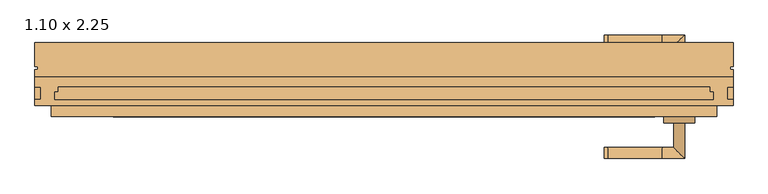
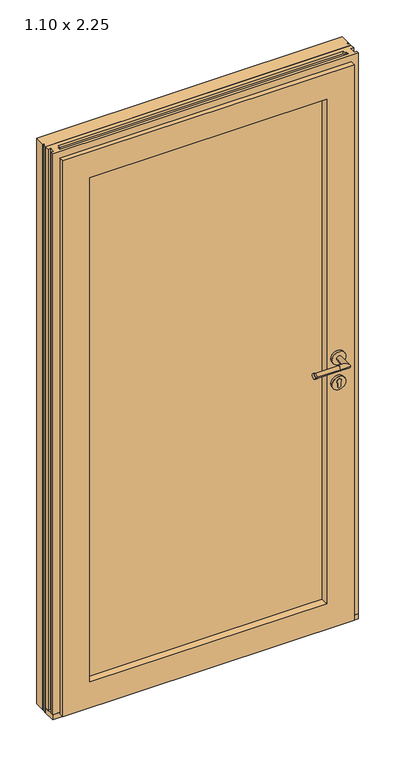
"""IFC4 building model written with IfcOpenShell, lengths in millimetres: door geometry, Porte vitrée MéO : 1.10 x 2.25."""

import ifcopenshell
import ifcopenshell.guid

model = None  # the IFC model being written
_history = None  # IfcOwnerHistory: only IFC2X3 demands one
_inside = {}  # id of a spatial element -> (the spatial element, [elements in it])
_under = {}  # id of a project, library or spatial element -> (it, [spatial elements below it])
_declared = {}  # id of a project -> (the project, [libraries it declares])
_typed = {}  # id of a type object -> (the type object, [elements of that type])
_made_of = {}  # id of a material, layer set ... -> (it, [elements and type objects made of it])


def new_model(schema):
    """Start an empty IFC model of exactly this schema.

    Asked for "IFC4X3", IfcOpenShell would pick the latest addendum, in which some entities
    have other attributes; the version numbers below select the first issue.
    IFC2X3 requires an IfcOwnerHistory on every rooted entity: one is made here for all.
    """
    global model, _history
    if schema == "IFC4X3":
        model = ifcopenshell.file(schema_version=(4, 3, 0, 0))
    else:
        model = ifcopenshell.file(schema=schema)
    _inside.clear()
    _under.clear()
    _declared.clear()
    _typed.clear()
    _made_of.clear()
    _history = None
    if model.schema == "IFC2X3":
        org = make("IfcOrganization", Name="unknown")
        user = make(
            "IfcPersonAndOrganization",
            ThePerson=make("IfcPerson", FamilyName="unknown"),
            TheOrganization=org,
        )
        app = make(
            "IfcApplication",
            ApplicationDeveloper=org,
            Version="unknown",
            ApplicationFullName="unknown",
            ApplicationIdentifier="unknown",
        )
        _history = make(
            "IfcOwnerHistory",
            OwningUser=user,
            OwningApplication=app,
            ChangeAction="ADDED",
            CreationDate=0,
        )
    return model


def make(cls, **values):
    """One entity of the class cls with the attributes given. An attribute that is None is left unset."""
    return model.create_entity(
        cls, **{name: value for name, value in values.items() if value is not None}
    )


def rooted(cls, **values):
    """An entity with a GlobalId (a new one), such as an element, a storey or a relation."""
    return make(cls, GlobalId=ifcopenshell.guid.new(), OwnerHistory=_history, **values)


def si_unit(unit_type, name, prefix=None):
    """IfcSIUnit, for example si_unit("LENGTHUNIT", "METRE", prefix="MILLI")."""
    return make("IfcSIUnit", UnitType=unit_type, Prefix=prefix, Name=name)


def assignment(units):
    """IfcUnitAssignment: the units of a project."""
    return None if units is None else make("IfcUnitAssignment", Units=units)


def point(xyz):
    """IfcCartesianPoint."""
    return None if xyz is None else make("IfcCartesianPoint", Coordinates=xyz)


def direction(xyz):
    """IfcDirection."""
    return None if xyz is None else make("IfcDirection", DirectionRatios=xyz)


def frame(location, z_axis=None, x_axis=None):
    """IfcAxis2Placement3D, a coordinate frame: its origin and axes. An axis left out is left unset."""
    return make(
        "IfcAxis2Placement3D",
        Location=point(location),
        Axis=direction(z_axis),
        RefDirection=direction(x_axis),
    )


def frame_2d(location, x_axis=None):
    """IfcAxis2Placement2D, a coordinate frame in the plane: its origin and x axis."""
    return make(
        "IfcAxis2Placement2D", Location=point(location), RefDirection=direction(x_axis)
    )


def origin():
    """The frame at (0, 0, 0) with its axes left unset."""
    return frame((0.0, 0.0, 0.0))


def origin_with_axes():
    """The frame at (0, 0, 0) with the z axis (0, 0, 1) and the x axis (1, 0, 0) written out."""
    return frame((0.0, 0.0, 0.0), z_axis=(0.0, 0.0, 1.0), x_axis=(1.0, 0.0, 0.0))


def place(relative_to, where):
    """IfcLocalPlacement: puts the frame where relative to a parent placement (None: the world)."""
    return make(
        "IfcLocalPlacement", PlacementRelTo=relative_to, RelativePlacement=where
    )


def context(
    kind, dimensions, precision=None, world=None, true_north=None, identifier=None
):
    """IfcGeometricRepresentationContext, for example the 3D "Model" context."""
    return make(
        "IfcGeometricRepresentationContext",
        ContextIdentifier=identifier,
        ContextType=kind,
        CoordinateSpaceDimension=dimensions,
        Precision=precision,
        WorldCoordinateSystem=world,
        TrueNorth=true_north,
    )


def project(units=None, contexts=None):
    """IfcProject with its units and contexts."""
    return rooted(
        "IfcProject",
        Name="project",
        RepresentationContexts=contexts,
        UnitsInContext=assignment(units),
    )


def spatial(cls, under=None, at=None, **own):
    """A site, building, storey or space (cls), placed at a placement, below another one or the project."""
    s = rooted(cls, ObjectPlacement=at, **own)
    if under is not None:
        _under.setdefault(under.id(), (under, []))[1].append(s)
    return s


def polyline(points):
    """IfcPolyline through the points."""
    return make("IfcPolyline", Points=[point(p) for p in points])


def circle_curve(where, radius):
    """IfcCircle in the frame where."""
    return make("IfcCircle", Position=where, Radius=radius)


def ellipse_curve(where, semi_axis1, semi_axis2):
    """IfcEllipse in the frame where."""
    return make(
        "IfcEllipse", Position=where, SemiAxis1=semi_axis1, SemiAxis2=semi_axis2
    )


def trimmed(basis, trim1, trim2, sense, master):
    """IfcTrimmedCurve: the piece of a basis curve between two trims."""
    return make(
        "IfcTrimmedCurve",
        BasisCurve=basis,
        Trim1=trim1,
        Trim2=trim2,
        SenseAgreement=sense,
        MasterRepresentation=master,
    )


def segment(curve, same_sense, transition):
    """IfcCompositeCurveSegment."""
    return make(
        "IfcCompositeCurveSegment",
        Transition=transition,
        SameSense=same_sense,
        ParentCurve=curve,
    )


def composite_curve(segments, self_intersect=None):
    """IfcCompositeCurve: segments joined end to end."""
    return make("IfcCompositeCurve", Segments=segments, SelfIntersect=self_intersect)


def outline(outer, holes=None, kind="AREA"):
    """IfcArbitraryClosedProfileDef: a profile drawn as a closed curve; with holes, ...WithVoids."""
    if holes is None:
        return make("IfcArbitraryClosedProfileDef", ProfileType=kind, OuterCurve=outer)
    return make(
        "IfcArbitraryProfileDefWithVoids",
        ProfileType=kind,
        OuterCurve=outer,
        InnerCurves=holes,
    )


def extrude(swept, where, along, depth):
    """IfcExtrudedAreaSolid: the profile swept, set in the frame where, extruded along a direction by depth."""
    return make(
        "IfcExtrudedAreaSolid",
        SweptArea=swept,
        Position=where,
        ExtrudedDirection=direction(along),
        Depth=depth,
    )


def faces_of(points, faces, orient=None, outer=None):
    """IfcFace entities. A face is a list of loops; a loop is a list of indices into points, from 0.

    orient and outer hold one flag for each loop. By default every Orientation is true, the
    first loop of a face is its IfcFaceOuterBound and the others are IfcFaceBound.
    """
    made = []
    for i, loops in enumerate(faces):
        bounds = []
        for j, loop in enumerate(loops):
            is_outer = j == 0 if outer is None else outer[i][j]
            bounds.append(
                make(
                    "IfcFaceOuterBound" if is_outer else "IfcFaceBound",
                    Bound=make("IfcPolyLoop", Polygon=[points[k] for k in loop]),
                    Orientation=True if orient is None else orient[i][j],
                )
            )
        made.append(make("IfcFace", Bounds=bounds))
    return made


def faceted_brep(points, faces, orient=None, outer=None, voids=None):
    """IfcFacetedBrep: a solid bounded by flat faces; with voids (closed shells), ...WithVoids."""
    shared = [point(p) for p in points]
    hull = make("IfcClosedShell", CfsFaces=faces_of(shared, faces, orient, outer))
    if voids is None:
        return make("IfcFacetedBrep", Outer=hull)
    return make(
        "IfcFacetedBrepWithVoids",
        Outer=hull,
        Voids=[
            make(cls, CfsFaces=faces_of(shared, fs, o, b)) for cls, fs, o, b in voids
        ],
    )


def shape(context_of_items, identifier, shape_type, items):
    """IfcShapeRepresentation: the items that make up one representation, for example the "Body"."""
    return make(
        "IfcShapeRepresentation",
        ContextOfItems=context_of_items,
        RepresentationIdentifier=identifier,
        RepresentationType=shape_type,
        Items=items,
    )


def source(mapping_origin, context_of_items, identifier, shape_type, items):
    """IfcRepresentationMap: a shape defined once, which mapped items show again and again."""
    return make(
        "IfcRepresentationMap",
        MappingOrigin=mapping_origin,
        MappedRepresentation=shape(context_of_items, identifier, shape_type, items),
    )


def transform(
    local_origin,
    x_axis=None,
    y_axis=None,
    z_axis=None,
    scale=None,
    scale2=None,
    scale3=None,
    uniform=True,
):
    """IfcCartesianTransformationOperator3D, or its non-uniform kind. x_axis, y_axis, z_axis: its Axis1, 2, 3."""
    if uniform:
        return make(
            "IfcCartesianTransformationOperator3D",
            Axis1=direction(x_axis),
            Axis2=direction(y_axis),
            LocalOrigin=point(local_origin),
            Scale=scale,
            Axis3=direction(z_axis),
        )
    return make(
        "IfcCartesianTransformationOperator3DnonUniform",
        Axis1=direction(x_axis),
        Axis2=direction(y_axis),
        LocalOrigin=point(local_origin),
        Scale=scale,
        Axis3=direction(z_axis),
        Scale2=scale2,
        Scale3=scale3,
    )


def mapped(mapping_source, mapping_target):
    """IfcMappedItem: shows the shape of a source again, moved by a transform."""
    return make(
        "IfcMappedItem", MappingSource=mapping_source, MappingTarget=mapping_target
    )


def made_of(thing, what):
    """Note that an element or type object is made of a material, layer set ...; save() writes the relation."""
    if what is not None:
        _made_of.setdefault(what.id(), (what, []))[1].append(thing)
    return thing


def element(
    cls,
    number,
    at=None,
    inside=None,
    cuts=None,
    type_object=None,
    material=None,
    context=None,
    identifier="Body",
    shape_type=None,
    held_by="IfcProductDefinitionShape",
    body=None,
    shapes=None,
    **own,
):
    """One element of the class cls, such as IfcWall. Its Tag is "e" and its number.

    at: its placement. inside: the storey or other place that contains it. cuts: it is an
    opening in that element (IfcRelVoidsElement). A single representation is given by context,
    identifier, shape_type and body (its items); several are given by shapes. held_by: the class
    of the entity that holds the representations. save() writes the other relations.
    """
    e = rooted(cls, Tag="e%d" % number, ObjectPlacement=at, **own)
    if body is not None:
        shapes = [shape(context, identifier, shape_type, body)]
    if shapes is not None:
        e.Representation = make(held_by, Representations=shapes)
    if inside is not None:
        _inside.setdefault(inside.id(), (inside, []))[1].append(e)
    if cuts is not None:
        rooted(
            "IfcRelVoidsElement", RelatingBuildingElement=cuts, RelatedOpeningElement=e
        )
    if type_object is not None:
        _typed.setdefault(type_object.id(), (type_object, []))[1].append(e)
    return made_of(e, material)


def aggregate(whole, parts):
    """IfcRelAggregates: a whole, such as a stair, and the parts it consists of."""
    return rooted("IfcRelAggregates", RelatingObject=whole, RelatedObjects=parts)


def save(model, path):
    """Write the relations noted so far, then the file.

    IfcRelAggregates (storeys below a building ...), IfcRelContainedInSpatialStructure (elements
    in a storey), IfcRelDefinesByType, IfcRelAssociatesMaterial and IfcRelDeclares: one each for
    every whole, place, type object, material and project.
    """
    for whole, parts in _under.values():
        aggregate(whole, parts)
    for where, things in _inside.values():
        rooted(
            "IfcRelContainedInSpatialStructure",
            RelatedElements=things,
            RelatingStructure=where,
        )
    for kind, things in _typed.values():
        rooted("IfcRelDefinesByType", RelatedObjects=things, RelatingType=kind)
    for what, things in _made_of.values():
        rooted("IfcRelAssociatesMaterial", RelatedObjects=things, RelatingMaterial=what)
    for by, libraries in _declared.values():
        rooted("IfcRelDeclares", RelatingContext=by, RelatedDefinitions=libraries)
    model.write(path)


def plane_surface(at):
    """IfcPlane: the flat surface through the origin of the frame at, square to its z axis."""
    return make("IfcPlane", Position=at)


def cylinder_surface(at, radius):
    """IfcCylindricalSurface: all points at the distance radius from the z axis of the frame at."""
    return make("IfcCylindricalSurface", Position=at, Radius=radius)


def advanced_brep(points, edges, surfaces, faces):
    """IfcAdvancedBrep: a solid bounded by faces that lie on surfaces and meet in shared edges.

    An edge is (start, end): straight between two places in points (the first is 0);
    or (start, end, curve); or (start, end, curve, False) where it runs against its curve.
    A face is (place in surfaces, loops), or (place, loops, False) where it looks against
    its surface's normal. A loop lists edges by number (the first is 1), with a minus sign
    where the edge is run from its end to its start. The first loop is the outer one.
    """
    corners = [point(p) for p in points]
    vertices = [make("IfcVertexPoint", VertexGeometry=c) for c in corners]
    made = []
    for start, end, *more in edges:
        made.append(
            make(
                "IfcEdgeCurve",
                EdgeStart=vertices[start],
                EdgeEnd=vertices[end],
                EdgeGeometry=more[0] if more else make("IfcPolyline", Points=[corners[start], corners[end]]),
                SameSense=more[1] if len(more) > 1 else True,
            )
        )
    hull = []
    for where, loops, *sense in faces:
        bounds = []
        for j, loop in enumerate(loops):
            ring = [make("IfcOrientedEdge", EdgeElement=made[abs(k) - 1], Orientation=k > 0) for k in loop]
            bounds.append(
                make(
                    "IfcFaceOuterBound" if j == 0 else "IfcFaceBound",
                    Bound=make("IfcEdgeLoop", EdgeList=ring),
                    Orientation=True,
                )
            )
        hull.append(make("IfcAdvancedFace", Bounds=bounds, FaceSurface=surfaces[where], SameSense=sense[0] if sense else True))
    return make("IfcAdvancedBrep", Outer=make("IfcClosedShell", CfsFaces=hull))


def door_1_10_x_2_25_61aac9a4(model_context):
    return source(origin(), model_context, "Body", "SolidModel", [
        advanced_brep(
        [(483.5, -122.0, 1100.0), (502.5, -122.0, 1100.0), (502.5, -62.0, 1100.0), (483.5, -81.0, 1100.0), (367.5, -81.0, 1100.0), (367.5, -62.0, 1100.0), (373.5, -81.0, 1100.0), (373.5, -62.0, 1100.0), (464.5, -62.0, 1100.0), (464.5, -81.0, 1100.0), (373.5, -80.5, 1100.0), (373.5, -62.5, 1100.0), (464.5, -80.5, 1100.0), (464.5, -62.5, 1100.0)],
        [
            (0, 1, circle_curve(frame((493.0, -122.0, 1100.0), z_axis=(0.0, -1.0, 0.0), x_axis=(1.0, 0.0, 0.0)), 9.5)),
            (1, 0, circle_curve(frame((493.0, -122.0, 1100.0), z_axis=(0.0, -1.0, 0.0), x_axis=(1.0, 0.0, 0.0)), 9.5)),
            (1, 2),
            (2, 3, ellipse_curve(frame((493.0, -71.5, 1100.0), z_axis=(0.7071067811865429, -0.707106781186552, 0.0), x_axis=(-0.7071067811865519, -0.707106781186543, 0.0)), 13.4350288, 9.5)),
            (3, 0),
            (3, 2, ellipse_curve(frame((493.0, -71.5, 1100.0), z_axis=(0.7071067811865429, -0.707106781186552, 0.0), x_axis=(-0.7071067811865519, -0.707106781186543, 0.0)), 13.4350288, 9.5)),
            (4, 5, circle_curve(frame((367.5, -71.5, 1100.0), z_axis=(-1.0, 0.0, 0.0), x_axis=(0.0, 1.0, 0.0)), 9.5)),
            (5, 4, circle_curve(frame((367.5, -71.5, 1100.0), z_axis=(-1.0, 0.0, 0.0), x_axis=(0.0, 1.0, 0.0)), 9.5)),
            (4, 6),
            (6, 7, circle_curve(frame((373.5, -71.5, 1100.0), z_axis=(-1.0, 0.0, 0.0), x_axis=(0.0, 1.0, 0.0)), 9.5)),
            (7, 5),
            (2, 8),
            (8, 9, circle_curve(frame((464.5, -71.5, 1100.0), z_axis=(1.0, 0.0, 0.0), x_axis=(0.0, 1.0, 0.0)), 9.5)),
            (9, 3),
            (9, 8, circle_curve(frame((464.5, -71.5, 1100.0), z_axis=(1.0, 0.0, 0.0), x_axis=(0.0, 1.0, 0.0)), 9.5)),
            (7, 6, circle_curve(frame((373.5, -71.5, 1100.0), z_axis=(-1.0, 0.0, 0.0), x_axis=(0.0, 1.0, 0.0)), 9.5)),
            (10, 11, circle_curve(frame((373.5, -71.5, 1100.0), z_axis=(-1.0, 0.0, 0.0), x_axis=(0.0, 1.0, 0.0)), 9.0)),
            (11, 10, circle_curve(frame((373.5, -71.5, 1100.0), z_axis=(-1.0, 0.0, 0.0), x_axis=(0.0, 1.0, 0.0)), 9.0)),
            (12, 13, circle_curve(frame((464.5, -71.5, 1100.0), z_axis=(1.0, 0.0, 0.0), x_axis=(0.0, 1.0, 0.0)), 9.0)),
            (13, 12, circle_curve(frame((464.5, -71.5, 1100.0), z_axis=(1.0, 0.0, 0.0), x_axis=(0.0, 1.0, 0.0)), 9.0)),
            (10, 12),
            (13, 11),
        ],
        [
            plane_surface(frame((493.0, -122.0, 1100.0), z_axis=(0.0, -1.0, 0.0), x_axis=(0.0, 0.0, 1.0))),
            cylinder_surface(frame((493.0, -122.0, 1100.0), z_axis=(0.0, -1.0, 0.0), x_axis=(1.0, 0.0, 0.0)), 9.5),
            plane_surface(frame((367.5, -71.5, 1100.0), z_axis=(-1.0, 0.0, 0.0), x_axis=(0.0, 0.0, 1.0))),
            cylinder_surface(frame((493.0, -71.5, 1100.0), z_axis=(1.0, 0.0, 0.0), x_axis=(0.0, 1.0, 0.0)), 9.5),
            plane_surface(frame((373.5, -62.0, 1100.0), z_axis=(1.0, 0.0, 0.0), x_axis=(0.0, 0.0, 1.0))),
            plane_surface(frame((464.5, -62.0, 1100.0), z_axis=(-1.0, 0.0, 0.0), x_axis=(0.0, 0.0, -1.0))),
            cylinder_surface(frame((493.0, -71.5, 1100.0), z_axis=(1.0, 0.0, 0.0), x_axis=(0.0, 1.0, 0.0)), 9.0),
        ],
        [
            (0, [[1, 2]]),
            (1, [[3, 4, 5, -2]]),
            (1, [[-5, 6, -3, -1]]),
            (2, [[7, 8]]),
            (3, [[9, 10, 11, -7]]),
            (3, [[12, 13, 14, -4]]),
            (3, [[-14, 15, -12, -6]]),
            (3, [[-11, 16, -9, -8]]),
            (4, [[-16, -10], [17, 18]]),
            (5, [[-15, -13], [19, 20]]),
            (6, [[21, -20, 22, -17]]),
            (6, [[-22, -19, -21, -18]]),
        ],
    ),
        extrude(outline(composite_curve([segment(trimmed(circle_curve(frame_2d((999.75, 493.0)), 26.0), [point((999.75, 519.0))], [point((999.75, 467.0))], False, "CARTESIAN"), True, "CONTINUOUS"), segment(trimmed(circle_curve(frame_2d((999.75, 493.0)), 26.0), [point((999.75, 467.0))], [point((999.75, 519.0))], False, "CARTESIAN"), True, "CONTINUOUS")], self_intersect=False)), frame((0.0, -132.0, 0.0), z_axis=(0.0, 1.0, 0.0), x_axis=(0.0, 0.0, 1.0)), (0.0, 0.0, 1.0), 10.0),
        extrude(outline(composite_curve([segment(trimmed(circle_curve(frame_2d((1008.0, 493.0)), 8.75), [point((1001.404547, 498.75))], [point((1001.404547, 487.25))], False, "CARTESIAN"), True, "CONTINUOUS"), segment(polyline([(1001.404547, 487.25), (988.0, 487.25)]), True, "CONTINUOUS"), segment(trimmed(circle_curve(frame_2d((988.0, 493.0)), 5.75), [point((988.0, 487.25))], [point((988.0, 498.75))], False, "CARTESIAN"), True, "CONTINUOUS"), segment(polyline([(988.0, 498.75), (1001.404547, 498.75)]), True, "CONTINUOUS")], self_intersect=False)), frame((0.0, -122.0, 0.0), z_axis=(0.0, 1.0, 0.0), x_axis=(0.0, 0.0, 1.0)), (0.0, 0.0, 1.0), 1.0),
        extrude(outline(composite_curve([segment(trimmed(circle_curve(frame_2d((1100.0, 493.0)), 26.0), [point((1100.0, 519.0))], [point((1100.0, 467.0))], False, "CARTESIAN"), True, "CONTINUOUS"), segment(trimmed(circle_curve(frame_2d((1100.0, 493.0)), 26.0), [point((1100.0, 467.0))], [point((1100.0, 519.0))], False, "CARTESIAN"), True, "CONTINUOUS")], self_intersect=False)), frame((0.0, -132.0, 0.0), z_axis=(0.0, 1.0, 0.0), x_axis=(0.0, 0.0, 1.0)), (0.0, 0.0, 1.0), 10.0),
        advanced_brep(
        [(483.5, -209.0, 1100.0), (502.5, -209.0, 1100.0), (483.5, -250.0, 1100.0), (502.5, -269.0, 1100.0), (367.5, -250.0, 1100.0), (367.5, -269.0, 1100.0), (464.5, -250.0, 1100.0), (464.5, -269.0, 1100.0), (373.5, -269.0, 1100.0), (373.5, -250.0, 1100.0), (373.5, -250.5, 1100.0), (373.5, -268.5, 1100.0), (464.5, -250.5, 1100.0), (464.5, -268.5, 1100.0)],
        [
            (0, 1, circle_curve(frame((493.0, -209.0, 1100.0), z_axis=(0.0, 1.0, 0.0), x_axis=(1.0, 0.0, 0.0)), 9.5)),
            (1, 0, circle_curve(frame((493.0, -209.0, 1100.0), z_axis=(0.0, 1.0, 0.0), x_axis=(1.0, 0.0, 0.0)), 9.5)),
            (0, 2),
            (2, 3, ellipse_curve(frame((493.0, -259.5, 1100.0), z_axis=(0.7071067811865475, 0.7071067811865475, 0.0), x_axis=(-0.7071067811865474, 0.7071067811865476, 0.0)), 13.4350288, 9.5)),
            (3, 1),
            (3, 2, ellipse_curve(frame((493.0, -259.5, 1100.0), z_axis=(0.7071067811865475, 0.7071067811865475, 0.0), x_axis=(-0.7071067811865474, 0.7071067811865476, 0.0)), 13.4350288, 9.5)),
            (4, 5, circle_curve(frame((367.5, -259.5, 1100.0), z_axis=(-1.0, 0.0, 0.0), x_axis=(0.0, -1.0, 0.0)), 9.5)),
            (5, 4, circle_curve(frame((367.5, -259.5, 1100.0), z_axis=(-1.0, 0.0, 0.0), x_axis=(0.0, -1.0, 0.0)), 9.5)),
            (2, 6),
            (6, 7, circle_curve(frame((464.5, -259.5, 1100.0), z_axis=(1.0, 0.0, 0.0), x_axis=(0.0, -1.0, 0.0)), 9.5)),
            (7, 3),
            (5, 8),
            (8, 9, circle_curve(frame((373.5, -259.5, 1100.0), z_axis=(-1.0, 0.0, 0.0), x_axis=(0.0, -1.0, 0.0)), 9.5)),
            (9, 4),
            (7, 6, circle_curve(frame((464.5, -259.5, 1100.0), z_axis=(1.0, 0.0, 0.0), x_axis=(0.0, -1.0, 0.0)), 9.5)),
            (9, 8, circle_curve(frame((373.5, -259.5, 1100.0), z_axis=(-1.0, 0.0, 0.0), x_axis=(0.0, -1.0, 0.0)), 9.5)),
            (10, 11, circle_curve(frame((373.5, -259.5, 1100.0), z_axis=(-1.0, 0.0, 0.0), x_axis=(0.0, -1.0, 0.0)), 9.0)),
            (11, 10, circle_curve(frame((373.5, -259.5, 1100.0), z_axis=(-1.0, 0.0, 0.0), x_axis=(0.0, -1.0, 0.0)), 9.0)),
            (12, 13, circle_curve(frame((464.5, -259.5, 1100.0), z_axis=(1.0, 0.0, 0.0), x_axis=(0.0, -1.0, 0.0)), 9.0)),
            (13, 12, circle_curve(frame((464.5, -259.5, 1100.0), z_axis=(1.0, 0.0, 0.0), x_axis=(0.0, -1.0, 0.0)), 9.0)),
            (11, 13),
            (12, 10),
        ],
        [
            plane_surface(frame((493.0, -209.0, 1100.0), z_axis=(0.0, 1.0, 0.0), x_axis=(0.0, 0.0, 1.0))),
            cylinder_surface(frame((493.0, -209.0, 1100.0), z_axis=(0.0, 1.0, 0.0), x_axis=(1.0, 0.0, 0.0)), 9.5),
            plane_surface(frame((367.5, -259.5, 1100.0), z_axis=(-1.0, 0.0, 0.0), x_axis=(0.0, 0.0, 1.0))),
            cylinder_surface(frame((493.0, -259.5, 1100.0), z_axis=(1.0, 0.0, 0.0), x_axis=(0.0, -1.0, 0.0)), 9.5),
            plane_surface(frame((373.5, -269.0, 1100.0), z_axis=(1.0, 0.0, 0.0), x_axis=(0.0, 0.0, 1.0))),
            plane_surface(frame((464.5, -269.0, 1100.0), z_axis=(-1.0, 0.0, 0.0), x_axis=(0.0, 0.0, -1.0))),
            cylinder_surface(frame((493.0, -259.5, 1100.0), z_axis=(1.0, 0.0, 0.0), x_axis=(0.0, -1.0, 0.0)), 9.0),
        ],
        [
            (0, [[1, 2]]),
            (1, [[-1, 3, 4, 5]]),
            (1, [[-2, -5, 6, -3]]),
            (2, [[7, 8]]),
            (3, [[-4, 9, 10, 11]]),
            (3, [[-8, 12, 13, 14]]),
            (3, [[-6, -11, 15, -9]]),
            (3, [[-7, -14, 16, -12]]),
            (4, [[-13, -16], [17, 18]]),
            (5, [[-10, -15], [19, 20]]),
            (6, [[-18, 21, -19, 22]]),
            (6, [[-17, -22, -20, -21]]),
        ],
    ),
        extrude(outline(composite_curve([segment(trimmed(circle_curve(frame_2d((999.75, 493.0)), 26.0), [point((999.75, 519.0))], [point((999.75, 467.0))], False, "CARTESIAN"), True, "CONTINUOUS"), segment(trimmed(circle_curve(frame_2d((999.75, 493.0)), 26.0), [point((999.75, 467.0))], [point((999.75, 519.0))], False, "CARTESIAN"), True, "CONTINUOUS")], self_intersect=False)), frame((0.0, -209.0, 0.0), z_axis=(0.0, 1.0, 0.0), x_axis=(0.0, 0.0, 1.0)), (0.0, 0.0, 1.0), 10.0),
        extrude(outline(composite_curve([segment(trimmed(circle_curve(frame_2d((1008.0, 493.0)), 8.75), [point((1001.404547, 498.75))], [point((1001.404547, 487.25))], False, "CARTESIAN"), True, "CONTINUOUS"), segment(polyline([(1001.404547, 487.25), (988.0, 487.25)]), True, "CONTINUOUS"), segment(trimmed(circle_curve(frame_2d((988.0, 493.0)), 5.75), [point((988.0, 487.25))], [point((988.0, 498.75))], False, "CARTESIAN"), True, "CONTINUOUS"), segment(polyline([(988.0, 498.75), (1001.404547, 498.75)]), True, "CONTINUOUS")], self_intersect=False)), frame((0.0, -210.0, 0.0), z_axis=(0.0, 1.0, 0.0), x_axis=(0.0, 0.0, 1.0)), (0.0, 0.0, 1.0), 1.0),
        extrude(outline(composite_curve([segment(trimmed(circle_curve(frame_2d((1100.0, 493.0)), 26.0), [point((1100.0, 519.0))], [point((1100.0, 467.0))], False, "CARTESIAN"), True, "CONTINUOUS"), segment(trimmed(circle_curve(frame_2d((1100.0, 493.0)), 26.0), [point((1100.0, 467.0))], [point((1100.0, 519.0))], False, "CARTESIAN"), True, "CONTINUOUS")], self_intersect=False)), frame((0.0, -209.0, 0.0), z_axis=(0.0, 1.0, 0.0), x_axis=(0.0, 0.0, 1.0)), (0.0, 0.0, 1.0), 10.0),
        extrude(outline(polyline([(462.0, -148.0), (462.0, -175.9981764), (-462.0, -175.9981764), (-462.0, -148.0), (462.0, -148.0)])), frame((0.0, 0.0, 108.0), z_axis=(0.0, 0.0, 1.0), x_axis=(1.0, 0.0, 0.0)), (0.0, 0.0, 1.0), 2055.0),
        faceted_brep([(446.0, -148.0, 2147.0), (450.5226435, -132.0, 2151.5226435), (450.5226435, -132.0, 119.4773565), (446.0, -148.0, 124.0), (526.0, -132.0, 44.0), (-526.0, -132.0, 44.0), (-526.0, -132.0, 2227.0), (526.0, -132.0, 2227.0), (-450.5226435, -132.0, 2151.5226435), (-450.5226435, -132.0, 119.4773565), (-446.0, -148.0, 124.0), (526.0, -148.0, 2227.0), (-526.0, -148.0, 2227.0), (-526.0, -148.0, 44.0), (526.0, -148.0, 44.0), (-446.0, -148.0, 2147.0)], [[[0, 1, 2, 3]], [[4, 5, 6, 7], [1, 8, 9, 2]], [[3, 2, 9, 10]], [[11, 12, 13, 14], [3, 10, 15, 0]], [[7, 11, 14, 4]], [[4, 14, 13, 5]], [[10, 9, 8, 15]], [[5, 13, 12, 6]], [[15, 8, 1, 0]], [[6, 12, 11, 7]]]),
        faceted_brep([(556.0, -180.0, 2257.0), (556.0, -199.0, 2257.0), (556.0, -199.0, 14.0), (556.0, -180.0, 14.0), (-556.0, -199.0, 2257.0), (-556.0, -199.0, 14.0), (452.0, -199.0, 118.0), (-452.0, -199.0, 118.0), (-452.0, -199.0, 2153.0), (452.0, -199.0, 2153.0), (-556.0, -180.0, 14.0), (-556.0, -180.0, 2257.0), (526.0, -180.0, 2227.0), (-526.0, -180.0, 2227.0), (-526.0, -180.0, 44.0), (526.0, -180.0, 44.0), (526.0, -148.0, 2227.0), (526.0, -148.0, 44.0), (-526.0, -148.0, 44.0), (-526.0, -148.0, 2227.0), (462.0, -148.0, 2163.0), (-462.0, -148.0, 2163.0), (-462.0, -148.0, 108.0), (462.0, -148.0, 108.0), (462.0, -175.9981764, 2163.0), (462.0, -175.9981764, 108.0), (-462.0, -175.9981764, 108.0), (-462.0, -175.9981764, 2163.0), (446.2463825, -175.9981764, 2147.2463825), (-446.2463825, -175.9981764, 2147.2463825), (-446.2463825, -175.9981764, 123.7536175), (446.2463825, -175.9981764, 123.7536175)], [[[0, 1, 2, 3]], [[1, 4, 5, 2], [6, 7, 8, 9]], [[3, 2, 5, 10]], [[3, 10, 11, 0], [12, 13, 14, 15]], [[16, 12, 15, 17]], [[17, 15, 14, 18]], [[17, 18, 19, 16], [20, 21, 22, 23]], [[24, 20, 23, 25]], [[25, 23, 22, 26]], [[25, 26, 27, 24], [28, 29, 30, 31]], [[9, 28, 31, 6]], [[6, 31, 30, 7]], [[10, 5, 4, 11]], [[18, 14, 13, 19]], [[26, 22, 21, 27]], [[7, 30, 29, 8]], [[11, 4, 1, 0]], [[19, 13, 12, 16]], [[27, 21, 20, 24]], [[8, 29, 28, 9]]]),
        faceted_brep([(544.0, -75.0, 0.0), (583.0, -75.0, 0.0), (583.0, -115.0, 0.0), (578.0, -115.0, 0.0), (578.0, -120.0, 0.0), (583.0, -120.0, 0.0), (583.0, -132.0, 0.0), (521.5, -132.0, 0.0), (521.5, -124.0, 0.0), (544.0, -124.0, 0.0), (-583.0, -120.0, 0.0), (-578.0, -120.0, 0.0), (-578.0, -115.0, 0.0), (-583.0, -115.0, 0.0), (-583.0, -75.0, 0.0), (-544.0, -75.0, 0.0), (-544.0, -124.0, 0.0), (-521.5, -124.0, 0.0), (-521.5, -132.0, 0.0), (-583.0, -132.0, 0.0), (544.0, -124.0, 2245.0), (544.0, -75.0, 2245.0), (521.5, -132.0, 2222.5), (521.5, -124.0, 2222.5), (-544.0, -75.0, 2245.0), (-544.0, -124.0, 2245.0), (-521.5, -124.0, 2222.5), (-521.5, -132.0, 2222.5), (-583.0, -132.0, 2284.0), (-583.0, -120.0, 2284.0), (-583.0, -115.0, 2284.0), (-583.0, -75.0, 2284.0), (-578.0, -115.0, 2284.0), (-578.0, -120.0, 2284.0), (583.0, -120.0, 2284.0), (583.0, -132.0, 2284.0), (578.0, -120.0, 2284.0), (578.0, -115.0, 2284.0), (583.0, -115.0, 2284.0), (583.0, -75.0, 2284.0)], [[[0, 1, 2, 3, 4, 5, 6, 7, 8, 9]], [[10, 11, 12, 13, 14, 15, 16, 17, 18, 19]], [[0, 9, 20, 21]], [[8, 7, 22, 23]], [[24, 21, 20, 25]], [[26, 23, 22, 27]], [[18, 17, 26, 27]], [[25, 16, 15, 24]], [[28, 29, 10, 19]], [[30, 31, 14, 13]], [[32, 30, 13, 12]], [[33, 32, 12, 11]], [[29, 33, 11, 10]], [[34, 35, 6, 5]], [[36, 34, 5, 4]], [[37, 36, 4, 3]], [[38, 37, 3, 2]], [[39, 38, 2, 1]], [[39, 1, 0, 21, 24, 15, 14, 31]], [[9, 8, 23, 26, 17, 16, 25, 20]], [[27, 22, 7, 6, 35, 28, 19, 18]], [[39, 31, 30, 32, 33, 29, 28, 35, 34, 36, 37, 38]]]),
        faceted_brep([(583.0, -180.0, 2284.0), (583.0, -170.0, 2284.0), (573.0, -170.0, 2284.0), (573.0, -149.0, 2284.0), (583.0, -149.0, 2284.0), (583.0, -132.0, 2284.0), (-583.0, -132.0, 2284.0), (-583.0, -149.0, 2284.0), (-573.0, -149.0, 2284.0), (-573.0, -170.0, 2284.0), (-583.0, -170.0, 2284.0), (-583.0, -180.0, 2284.0), (550.0, -158.0, 2284.0), (550.0, -170.0, 2284.0), (-550.0, -170.0, 2284.0), (-550.0, -158.0, 2284.0), (-544.0, -158.0, 2284.0), (-544.0, -149.0, 2284.0), (544.0, -149.0, 2284.0), (544.0, -158.0, 2284.0), (550.0, -180.0, 20.0), (550.0, -158.0, 20.0), (544.0, -158.0, 20.0), (544.0, -132.0, 20.0), (583.0, -132.0, 20.0), (583.0, -149.0, 20.0), (573.0, -149.0, 20.0), (573.0, -170.0, 20.0), (583.0, -170.0, 20.0), (583.0, -180.0, 20.0), (-550.0, -180.0, 20.0), (-583.0, -180.0, 20.0), (-583.0, -170.0, 20.0), (-573.0, -170.0, 20.0), (-573.0, -149.0, 20.0), (-583.0, -149.0, 20.0), (-583.0, -132.0, 20.0), (-544.0, -132.0, 20.0), (-544.0, -158.0, 20.0), (-550.0, -158.0, 20.0), (-550.0, -180.0, 2251.0), (550.0, -180.0, 2251.0), (544.0, -132.0, 2251.0), (-544.0, -132.0, 2251.0), (544.0, -149.0, 2274.0), (544.0, -158.0, 2274.0), (544.0, -158.0, 2251.0), (550.0, -158.0, 2274.0), (550.0, -158.0, 2251.0), (550.0, -170.0, 2274.0), (-550.0, -170.0, 2274.0), (-550.0, -158.0, 2274.0), (-550.0, -158.0, 2251.0), (-544.0, -158.0, 2274.0), (-544.0, -158.0, 2251.0), (-544.0, -149.0, 2274.0)], [[[0, 1, 2, 3, 4, 5, 6, 7, 8, 9, 10, 11], [12, 13, 14, 15, 16, 17, 18, 19]], [[20, 21, 22, 23, 24, 25, 26, 27, 28, 29]], [[30, 31, 32, 33, 34, 35, 36, 37, 38, 39]], [[0, 11, 31, 30, 40, 41, 20, 29]], [[1, 0, 29, 28]], [[2, 1, 28, 27]], [[3, 2, 27, 26]], [[5, 4, 25, 24]], [[24, 23, 42, 43, 37, 36, 6, 5]], [[19, 18, 44, 45]], [[23, 22, 46, 42]], [[12, 19, 45, 47]], [[22, 21, 48, 46]], [[13, 12, 47, 49]], [[21, 20, 41, 48]], [[15, 14, 50, 51]], [[30, 39, 52, 40]], [[16, 15, 51, 53]], [[39, 38, 54, 52]], [[17, 16, 53, 55]], [[38, 37, 43, 54]], [[7, 6, 36, 35]], [[11, 10, 32, 31]], [[14, 13, 49, 50]], [[50, 49, 47, 45, 44, 55, 53, 51]], [[18, 17, 55, 44]], [[41, 40, 52, 54, 43, 42, 46, 48]], [[4, 3, 26, 25]], [[8, 7, 35, 34]], [[9, 8, 34, 33]], [[10, 9, 33, 32]]]),
        extrude(outline(polyline([(-3.354759, 0.0), (0.0, 0.0), (-0.9723795, -2.2), (-0.9723795, -15.1), (-2.3823795, -15.1), (-2.3823795, -2.2), (-3.354759, 0.0)])), frame((-521.5, -126.0676205, 35.1), z_axis=(1.0, 3.224210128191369e-12, 0.0), x_axis=(-3.224210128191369e-12, 1.0, 0.0)), (0.0, 0.0, 1.0), 1043.0),
        extrude(outline(polyline([(-544.0, -132.0), (-544.0, -115.0), (544.0, -115.0), (544.0, -132.0), (-544.0, -132.0)])), origin_with_axes(), (0.0, 0.0, 1.0), 20.0),
        extrude(outline(polyline([(-583.0, -180.0), (-583.0, -132.0), (583.0, -132.0), (583.0, -180.0), (-583.0, -180.0)])), origin_with_axes(), (0.0, 0.0, 1.0), 20.0),
        extrude(outline(polyline([(0.0, 0.0), (18.3886975, 0.0), (19.0946064, -4.0083154), (17.5188558, -4.2858226), (17.0453592, -1.5971982), (1.905907, -1.5971982), (4.0159704, -13.5786309), (10.7129102, -12.3992253), (11.6148085, -17.5204146), (3.3421182, -18.9773273), (0.0, 0.0)])), frame((-521.5, -132.0, 54.3693722), z_axis=(1.0, 3.2242101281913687e-12, 0.0), x_axis=(-3.175344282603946e-12, 0.9848440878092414, -0.17344198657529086)), (0.0, 0.0, 1.0), 1043.0),
    ])


if __name__ == "__main__":
    model = new_model("IFC4")
    model_context = context("Model", 3, world=origin())
    ifc_project = project(units=[si_unit("LENGTHUNIT", "METRE", prefix="MILLI")], contexts=[model_context])
    site = spatial("IfcSite", under=ifc_project)
    building = spatial("IfcBuilding", under=site)
    placement = place(None, origin())
    door_1_10_x_2_25_shape = door_1_10_x_2_25_61aac9a4(model_context)
    element("IfcDoor", 1, ObjectType="Porte vitrée MéO : 1.10 x 2.25", at=placement, inside=building, context=model_context, shape_type="MappedRepresentation", body=[
        mapped(door_1_10_x_2_25_shape, transform((0.0, 0.0, 0.0), x_axis=(1.0, 0.0, 0.0), y_axis=(0.0, 1.0, 0.0), z_axis=(0.0, 0.0, 1.0))),
    ])
    save(model, "model.ifc")
